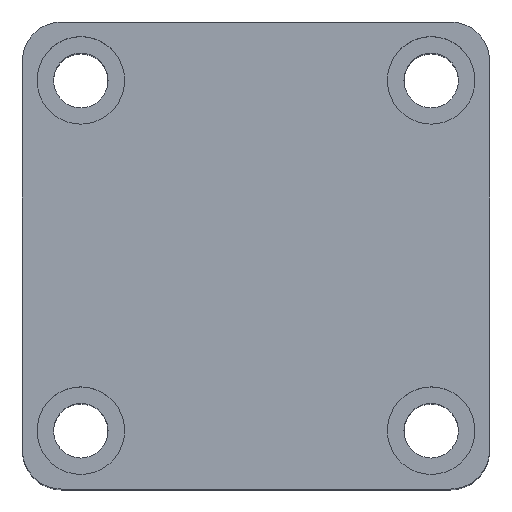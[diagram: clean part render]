
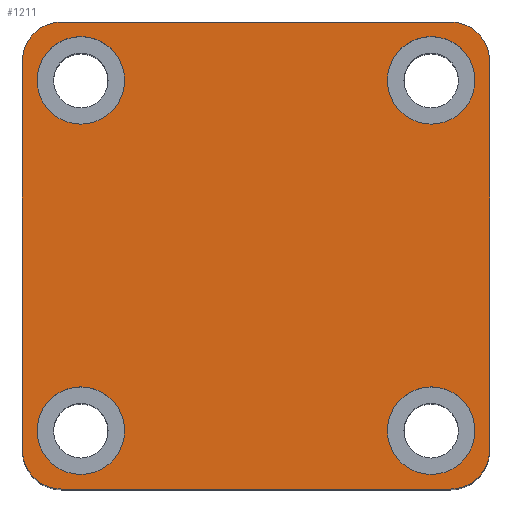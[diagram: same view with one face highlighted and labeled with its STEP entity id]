
A CAD part, top view. The second image highlights one B-rep face of the part: STEP entity #1211.
In plain terms, the highlighted planar face has unit normal (0, 0, 1).
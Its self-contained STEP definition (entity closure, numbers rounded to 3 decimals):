
#29 = CIRCLE ( 'NONE', #1954, 4. ) ;
#42 = CIRCLE ( 'NONE', #1959, 4.5 ) ;
#73 = CIRCLE ( 'NONE', #1983, 4.5 ) ;
#94 = CIRCLE ( 'NONE', #2003, 4. ) ;
#97 = CIRCLE ( 'NONE', #2005, 4. ) ;
#213 = FACE_BOUND ( 'NONE', #738, .T. ) ;
#214 = FACE_BOUND ( 'NONE', #460, .T. ) ;
#215 = FACE_BOUND ( 'NONE', #443, .T. ) ;
#218 = FACE_OUTER_BOUND ( 'NONE', #733, .T. ) ;
#222 = FACE_BOUND ( 'NONE', #771, .T. ) ;
#306 = ORIENTED_EDGE ( 'NONE', *, *, #2726, .F. ) ;
#307 = ORIENTED_EDGE ( 'NONE', *, *, #2688, .F. ) ;
#309 = ORIENTED_EDGE ( 'NONE', *, *, #2731, .F. ) ;
#310 = ORIENTED_EDGE ( 'NONE', *, *, #2073, .F. ) ;
#311 = ORIENTED_EDGE ( 'NONE', *, *, #2735, .F. ) ;
#331 = VERTEX_POINT ( 'NONE', #1576 ) ;
#333 = VERTEX_POINT ( 'NONE', #1649 ) ;
#336 = VERTEX_POINT ( 'NONE', #1569 ) ;
#337 = VERTEX_POINT ( 'NONE', #1563 ) ;
#339 = VERTEX_POINT ( 'NONE', #1557 ) ;
#348 = VERTEX_POINT ( 'NONE', #1546 ) ;
#386 = VERTEX_POINT ( 'NONE', #1499 ) ;
#387 = VERTEX_POINT ( 'NONE', #1496 ) ;
#392 = VERTEX_POINT ( 'NONE', #1478 ) ;
#397 = VERTEX_POINT ( 'NONE', #1465 ) ;
#400 = VERTEX_POINT ( 'NONE', #1449 ) ;
#411 = VERTEX_POINT ( 'NONE', #1348 ) ;
#416 = VERTEX_POINT ( 'NONE', #1340 ) ;
#425 = VERTEX_POINT ( 'NONE', #1329 ) ;
#443 = EDGE_LOOP ( 'NONE', ( #307, #309 ) ) ;
#460 = EDGE_LOOP ( 'NONE', ( #310, #311 ) ) ;
#467 = VERTEX_POINT ( 'NONE', #1307 ) ;
#518 = ORIENTED_EDGE ( 'NONE', *, *, #2763, .T. ) ;
#521 = ORIENTED_EDGE ( 'NONE', *, *, #1822, .T. ) ;
#523 = ORIENTED_EDGE ( 'NONE', *, *, #1874, .F. ) ;
#525 = ORIENTED_EDGE ( 'NONE', *, *, #2722, .F. ) ;
#586 = ORIENTED_EDGE ( 'NONE', *, *, #2686, .F. ) ;
#609 = ORIENTED_EDGE ( 'NONE', *, *, #2771, .T. ) ;
#621 = ORIENTED_EDGE ( 'NONE', *, *, #2769, .T. ) ;
#647 = ORIENTED_EDGE ( 'NONE', *, *, #2661, .T. ) ;
#648 = ORIENTED_EDGE ( 'NONE', *, *, #936, .T. ) ;
#649 = ORIENTED_EDGE ( 'NONE', *, *, #1833, .T. ) ;
#651 = ORIENTED_EDGE ( 'NONE', *, *, #2729, .T. ) ;
#703 = VERTEX_POINT ( 'NONE', #1315 ) ;
#733 = EDGE_LOOP ( 'NONE', ( #621, #651, #609, #649, #648, #647, #518, #521 ) ) ;
#738 = EDGE_LOOP ( 'NONE', ( #586, #306 ) ) ;
#771 = EDGE_LOOP ( 'NONE', ( #523, #525 ) ) ;
#903 = CIRCLE ( 'NONE', #1934, 4.5 ) ;
#909 = CIRCLE ( 'NONE', #1936, 4.5 ) ;
#936 = EDGE_CURVE ( 'NONE', #331, #400, #1064, .T. ) ;
#1061 = VECTOR ( 'NONE', #2316, 1000. ) ;
#1064 = LINE ( 'NONE', #2292, #1061 ) ;
#1071 = VECTOR ( 'NONE', #2109, 1000. ) ;
#1074 = LINE ( 'NONE', #2113, #1071 ) ;
#1075 = VECTOR ( 'NONE', #2131, 1000. ) ;
#1078 = LINE ( 'NONE', #2132, #1075 ) ;
#1087 = VECTOR ( 'NONE', #2205, 1000. ) ;
#1089 = LINE ( 'NONE', #2206, #1087 ) ;
#1133 = CIRCLE ( 'NONE', #1764, 4.5 ) ;
#1135 = CIRCLE ( 'NONE', #1767, 4. ) ;
#1140 = CIRCLE ( 'NONE', #1766, 4.5 ) ;
#1146 = CIRCLE ( 'NONE', #1779, 4.5 ) ;
#1152 = CIRCLE ( 'NONE', #1782, 4.5 ) ;
#1211 = ADVANCED_FACE ( 'NONE', ( #222, #213, #215, #214, #218 ), #1613, .T. ) ;
#1307 = CARTESIAN_POINT ( 'NONE',  ( -22.5, 18., 55. ) ) ;
#1315 = CARTESIAN_POINT ( 'NONE',  ( 20., 24., 55. ) ) ;
#1329 = CARTESIAN_POINT ( 'NONE',  ( -20., 24., 55. ) ) ;
#1340 = CARTESIAN_POINT ( 'NONE',  ( 22.5, 18., 55. ) ) ;
#1348 = CARTESIAN_POINT ( 'NONE',  ( -22.5, -18., 55. ) ) ;
#1362 = DIRECTION ( 'NONE',  ( 1., 0., 0. ) ) ;
#1363 = DIRECTION ( 'NONE',  ( 0., 0., 1. ) ) ;
#1364 = CARTESIAN_POINT ( 'NONE',  ( -20., -20., 55. ) ) ;
#1370 = DIRECTION ( 'NONE',  ( 1., 0., 0. ) ) ;
#1371 = DIRECTION ( 'NONE',  ( 0., 0., 1. ) ) ;
#1372 = CARTESIAN_POINT ( 'NONE',  ( 20., 20., 55. ) ) ;
#1449 = CARTESIAN_POINT ( 'NONE',  ( 20., -24., 55. ) ) ;
#1465 = CARTESIAN_POINT ( 'NONE',  ( 24., -20., 55. ) ) ;
#1478 = CARTESIAN_POINT ( 'NONE',  ( 13.5, 18., 55. ) ) ;
#1496 = CARTESIAN_POINT ( 'NONE',  ( -24., -20., 55. ) ) ;
#1499 = CARTESIAN_POINT ( 'NONE',  ( 22.5, -18., 55. ) ) ;
#1546 = CARTESIAN_POINT ( 'NONE',  ( 24., 20., 55. ) ) ;
#1557 = CARTESIAN_POINT ( 'NONE',  ( -13.5, 18., 55. ) ) ;
#1563 = CARTESIAN_POINT ( 'NONE',  ( -13.5, -18., 55. ) ) ;
#1569 = CARTESIAN_POINT ( 'NONE',  ( -24., 20., 55. ) ) ;
#1576 = CARTESIAN_POINT ( 'NONE',  ( -20., -24., 55. ) ) ;
#1610 = DIRECTION ( 'NONE',  ( 1., 0., 0. ) ) ;
#1613 = PLANE ( 'NONE',  #1802 ) ;
#1616 = CARTESIAN_POINT ( 'NONE',  ( 0., 0., 55. ) ) ;
#1621 = DIRECTION ( 'NONE',  ( 0., 0., 1. ) ) ;
#1649 = CARTESIAN_POINT ( 'NONE',  ( 13.5, -18., 55. ) ) ;
#1764 = AXIS2_PLACEMENT_3D ( 'NONE', #2304, #2303, #2302 ) ;
#1766 = AXIS2_PLACEMENT_3D ( 'NONE', #2320, #2319, #2318 ) ;
#1767 = AXIS2_PLACEMENT_3D ( 'NONE', #2326, #2325, #2324 ) ;
#1779 = AXIS2_PLACEMENT_3D ( 'NONE', #2342, #2341, #2339 ) ;
#1782 = AXIS2_PLACEMENT_3D ( 'NONE', #2354, #2353, #2352 ) ;
#1802 = AXIS2_PLACEMENT_3D ( 'NONE', #1616, #1621, #1610 ) ;
#1822 = EDGE_CURVE ( 'NONE', #348, #703, #97, .T. ) ;
#1833 = EDGE_CURVE ( 'NONE', #387, #331, #94, .T. ) ;
#1874 = EDGE_CURVE ( 'NONE', #339, #467, #73, .T. ) ;
#1934 = AXIS2_PLACEMENT_3D ( 'NONE', #2492, #2489, #2488 ) ;
#1936 = AXIS2_PLACEMENT_3D ( 'NONE', #2504, #2501, #2500 ) ;
#1954 = AXIS2_PLACEMENT_3D ( 'NONE', #2607, #2603, #2602 ) ;
#1959 = AXIS2_PLACEMENT_3D ( 'NONE', #2380, #2377, #2374 ) ;
#1983 = AXIS2_PLACEMENT_3D ( 'NONE', #2604, #2600, #2599 ) ;
#2003 = AXIS2_PLACEMENT_3D ( 'NONE', #1364, #1363, #1362 ) ;
#2005 = AXIS2_PLACEMENT_3D ( 'NONE', #1372, #1371, #1370 ) ;
#2073 = EDGE_CURVE ( 'NONE', #386, #333, #42, .T. ) ;
#2109 = DIRECTION ( 'NONE',  ( 0., -1., 0. ) ) ;
#2113 = CARTESIAN_POINT ( 'NONE',  ( -24., 24., 55. ) ) ;
#2131 = DIRECTION ( 'NONE',  ( -1., 0., 0. ) ) ;
#2132 = CARTESIAN_POINT ( 'NONE',  ( -24., 24., 55. ) ) ;
#2205 = DIRECTION ( 'NONE',  ( 0., 1., 0. ) ) ;
#2206 = CARTESIAN_POINT ( 'NONE',  ( 24., 24., 55. ) ) ;
#2292 = CARTESIAN_POINT ( 'NONE',  ( -24., -24., 55. ) ) ;
#2302 = DIRECTION ( 'NONE',  ( 1., 0., 0. ) ) ;
#2303 = DIRECTION ( 'NONE',  ( 0., 0., 1. ) ) ;
#2304 = CARTESIAN_POINT ( 'NONE',  ( 18., -18., 55. ) ) ;
#2316 = DIRECTION ( 'NONE',  ( 1., 0., 0. ) ) ;
#2318 = DIRECTION ( 'NONE',  ( 1., 0., 0. ) ) ;
#2319 = DIRECTION ( 'NONE',  ( 0., 0., 1. ) ) ;
#2320 = CARTESIAN_POINT ( 'NONE',  ( -18., -18., 55. ) ) ;
#2324 = DIRECTION ( 'NONE',  ( 1., 0., 0. ) ) ;
#2325 = DIRECTION ( 'NONE',  ( 0., 0., 1. ) ) ;
#2326 = CARTESIAN_POINT ( 'NONE',  ( -20., 20., 55. ) ) ;
#2339 = DIRECTION ( 'NONE',  ( 1., 0., 0. ) ) ;
#2341 = DIRECTION ( 'NONE',  ( 0., 0., 1. ) ) ;
#2342 = CARTESIAN_POINT ( 'NONE',  ( 18., 18., 55. ) ) ;
#2352 = DIRECTION ( 'NONE',  ( 1., 0., 0. ) ) ;
#2353 = DIRECTION ( 'NONE',  ( 0., 0., 1. ) ) ;
#2354 = CARTESIAN_POINT ( 'NONE',  ( -18., 18., 55. ) ) ;
#2374 = DIRECTION ( 'NONE',  ( 1., 0., 0. ) ) ;
#2377 = DIRECTION ( 'NONE',  ( 0., 0., 1. ) ) ;
#2380 = CARTESIAN_POINT ( 'NONE',  ( 18., -18., 55. ) ) ;
#2488 = DIRECTION ( 'NONE',  ( 1., 0., 0. ) ) ;
#2489 = DIRECTION ( 'NONE',  ( 0., 0., 1. ) ) ;
#2492 = CARTESIAN_POINT ( 'NONE',  ( -18., -18., 55. ) ) ;
#2500 = DIRECTION ( 'NONE',  ( 1., 0., 0. ) ) ;
#2501 = DIRECTION ( 'NONE',  ( 0., 0., 1. ) ) ;
#2504 = CARTESIAN_POINT ( 'NONE',  ( 18., 18., 55. ) ) ;
#2599 = DIRECTION ( 'NONE',  ( 1., 0., 0. ) ) ;
#2600 = DIRECTION ( 'NONE',  ( 0., 0., 1. ) ) ;
#2602 = DIRECTION ( 'NONE',  ( 1., 0., 0. ) ) ;
#2603 = DIRECTION ( 'NONE',  ( 0., 0., 1. ) ) ;
#2604 = CARTESIAN_POINT ( 'NONE',  ( -18., 18., 55. ) ) ;
#2607 = CARTESIAN_POINT ( 'NONE',  ( 20., -20., 55. ) ) ;
#2661 = EDGE_CURVE ( 'NONE', #400, #397, #29, .T. ) ;
#2686 = EDGE_CURVE ( 'NONE', #416, #392, #909, .T. ) ;
#2688 = EDGE_CURVE ( 'NONE', #337, #411, #903, .T. ) ;
#2722 = EDGE_CURVE ( 'NONE', #467, #339, #1152, .T. ) ;
#2726 = EDGE_CURVE ( 'NONE', #392, #416, #1146, .T. ) ;
#2729 = EDGE_CURVE ( 'NONE', #425, #336, #1135, .T. ) ;
#2731 = EDGE_CURVE ( 'NONE', #411, #337, #1140, .T. ) ;
#2735 = EDGE_CURVE ( 'NONE', #333, #386, #1133, .T. ) ;
#2763 = EDGE_CURVE ( 'NONE', #397, #348, #1089, .T. ) ;
#2769 = EDGE_CURVE ( 'NONE', #703, #425, #1078, .T. ) ;
#2771 = EDGE_CURVE ( 'NONE', #336, #387, #1074, .T. ) ;
